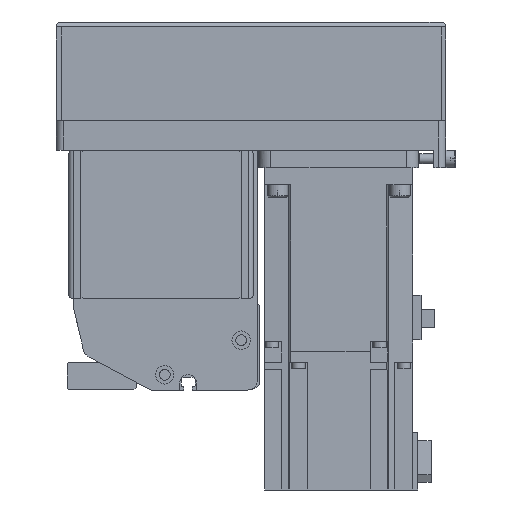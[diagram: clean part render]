
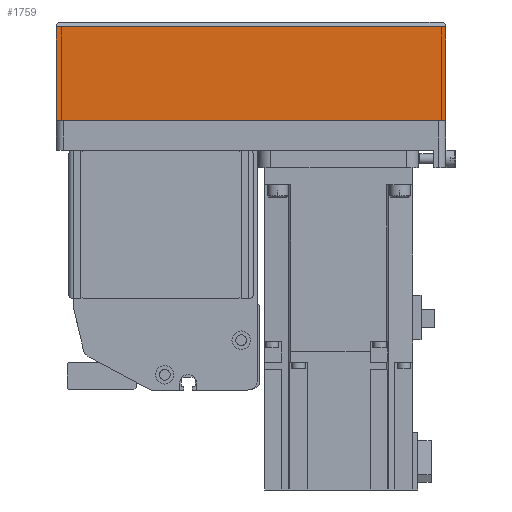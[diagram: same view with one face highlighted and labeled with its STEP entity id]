
A CAD part, left-side view. The second image highlights one B-rep face of the part: STEP entity #1759.
In plain terms, the highlighted planar face has unit normal (-1, 0, 0) as drawn and (0, -1, 0) by its records, which use the part's own axes.
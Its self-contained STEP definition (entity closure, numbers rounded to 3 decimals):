
#1759 = ADVANCED_FACE( '', ( #4111 ), #4112, .T. );
#4111 = FACE_OUTER_BOUND( '', #7170, .T. );
#4112 = PLANE( '', #7171 );
#7170 = EDGE_LOOP( '', ( #12053, #12054, #12055, #12056 ) );
#7171 = AXIS2_PLACEMENT_3D( '', #12057, #12058, #12059 );
#12053 = ORIENTED_EDGE( '', *, *, #18462, .F. );
#12054 = ORIENTED_EDGE( '', *, *, #17837, .F. );
#12055 = ORIENTED_EDGE( '', *, *, #19131, .T. );
#12056 = ORIENTED_EDGE( '', *, *, #18315, .T. );
#12057 = CARTESIAN_POINT( '', ( -158., -39., -12.1 ) );
#12058 = DIRECTION( '', ( 0., -1., 0. ) );
#12059 = DIRECTION( '', ( 0., 0., -1. ) );
#17837 = EDGE_CURVE( '', #21358, #21359, #21360, .T. );
#18315 = EDGE_CURVE( '', #22184, #22186, #22188, .T. );
#18462 = EDGE_CURVE( '', #21359, #22186, #22433, .T. );
#19131 = EDGE_CURVE( '', #21358, #22184, #23484, .T. );
#21358 = VERTEX_POINT( '', #26482 );
#21359 = VERTEX_POINT( '', #26483 );
#21360 = LINE( '', #26484, #26485 );
#22184 = VERTEX_POINT( '', #27745 );
#22186 = VERTEX_POINT( '', #27747 );
#22188 = LINE( '', #27749, #27750 );
#22433 = LINE( '', #28082, #28083 );
#23484 = LINE( '', #29577, #29578 );
#26482 = CARTESIAN_POINT( '', ( -158., -39., -12.1 ) );
#26483 = CARTESIAN_POINT( '', ( 0., -39., -12.1 ) );
#26484 = CARTESIAN_POINT( '', ( -158., -39., -12.1 ) );
#26485 = VECTOR( '', #32956, 1000. );
#27745 = CARTESIAN_POINT( '', ( -158., -39., -50. ) );
#27747 = CARTESIAN_POINT( '', ( 0., -39., -50. ) );
#27749 = CARTESIAN_POINT( '', ( -158., -39., -50. ) );
#27750 = VECTOR( '', #33559, 1000. );
#28082 = CARTESIAN_POINT( '', ( 0., -39., -12.1 ) );
#28083 = VECTOR( '', #33722, 1000. );
#29577 = CARTESIAN_POINT( '', ( -158., -39., -12.1 ) );
#29578 = VECTOR( '', #34536, 1000. );
#32956 = DIRECTION( '', ( 1., 0., 0. ) );
#33559 = DIRECTION( '', ( 1., 0., 0. ) );
#33722 = DIRECTION( '', ( 0., 0., -1. ) );
#34536 = DIRECTION( '', ( 0., 0., -1. ) );
